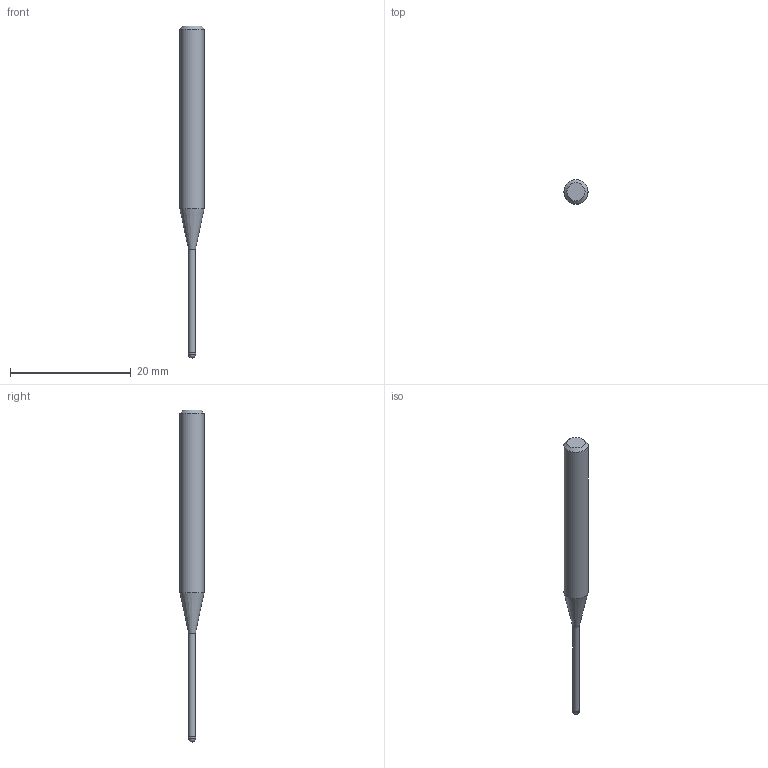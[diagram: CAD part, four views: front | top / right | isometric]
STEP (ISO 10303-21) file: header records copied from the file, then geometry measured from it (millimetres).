
FILE_DESCRIPTION((''),'2;1');
FILE_NAME('C:\Users\nsx150\AppData\Local\Temp\Mastercam 2021\3SYKECWX22\TEMP.step','2021-04-22T10:03:02',(''),(''),'STEP Write','Mastercam 2021 ... CNC Software, Inc.','');
FILE_SCHEMA(('AUTOMOTIVE_DESIGN'));
Length unit declared in the file: millimetre
Products named in the file (1): None
Bounding box: 4 x 4 x 55 mm (x, y, z)
Volume: 436.3 mm3; surface area: 512.1 mm2
Topology: 2 solids, 2 shells, 9 faces, 14 edges, 8 vertices
Faces by surface type: plane 3, cylinder 3, cone 2, sphere 1
Full cylindrical faces by diameter (mm): 1.15 x1, 1.2 x1, 4 x1
Entity records: 211 total; most frequent: DIRECTION 36, CARTESIAN_POINT 25, AXIS2_PLACEMENT_3D 18, ORIENTED_EDGE 14, EDGE_LOOP 14, STYLED_ITEM 12, ADVANCED_FACE 9, FACE_BOUND 8
